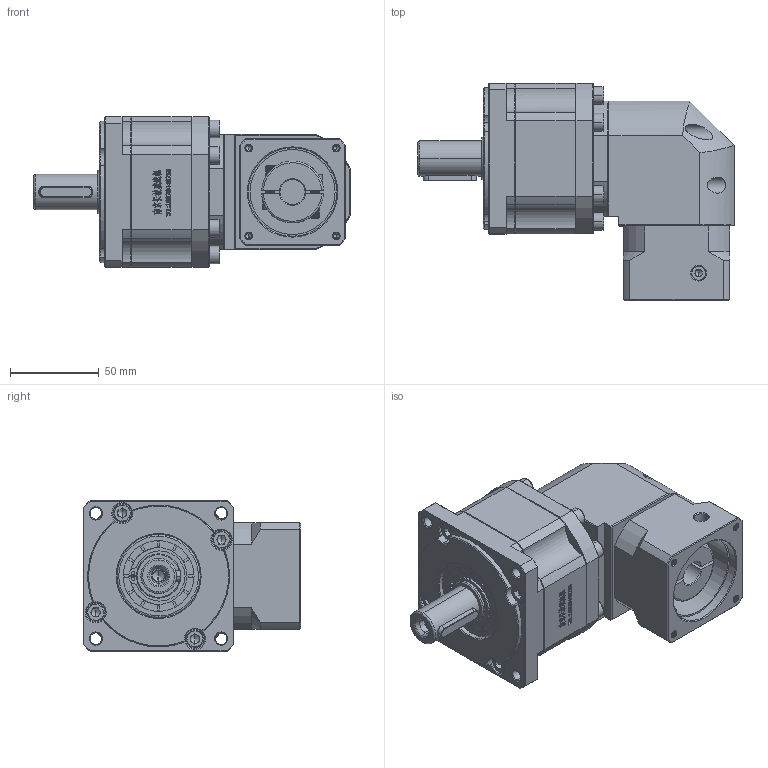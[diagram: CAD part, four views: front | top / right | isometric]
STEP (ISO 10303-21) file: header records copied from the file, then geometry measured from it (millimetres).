
FILE_DESCRIPTION (( 'STEP AP214' ), '1' );
FILE_NAME ('ZBR90-D20-L2-14-50-70-M4.step', '2022-05-07T15:15:27', ( '' ), ( 'Microsoft' ), 'SwSTEP 2.0', 'SolidWorks 2016', '' );
FILE_SCHEMA (( 'AUTOMOTIVE_DESIGN' ));
Length unit declared in the file: millimetre
Products named in the file (1): ZBR90-D20-L2-14-50-70-M4
Bounding box: 178.5 x 122.7 x 85 mm (x, y, z)
Volume: 799572.3 mm3; surface area: 99121.3 mm2
Topology: 5 solids, 5 shells, 3032 faces, 8112 edges, 5224 vertices
Faces by surface type: plane 1598, bspline 620, cylinder 437, cone 369, torus 8
Entity records: 161221 total; most frequent: CARTESIAN_POINT 56844, ORIENTED_EDGE 16132, DIRECTION 12392, EDGE_CURVE 8066, LINE 5330, VECTOR 5330, VERTEX_POINT 5224, AXIS2_PLACEMENT_3D 3531
